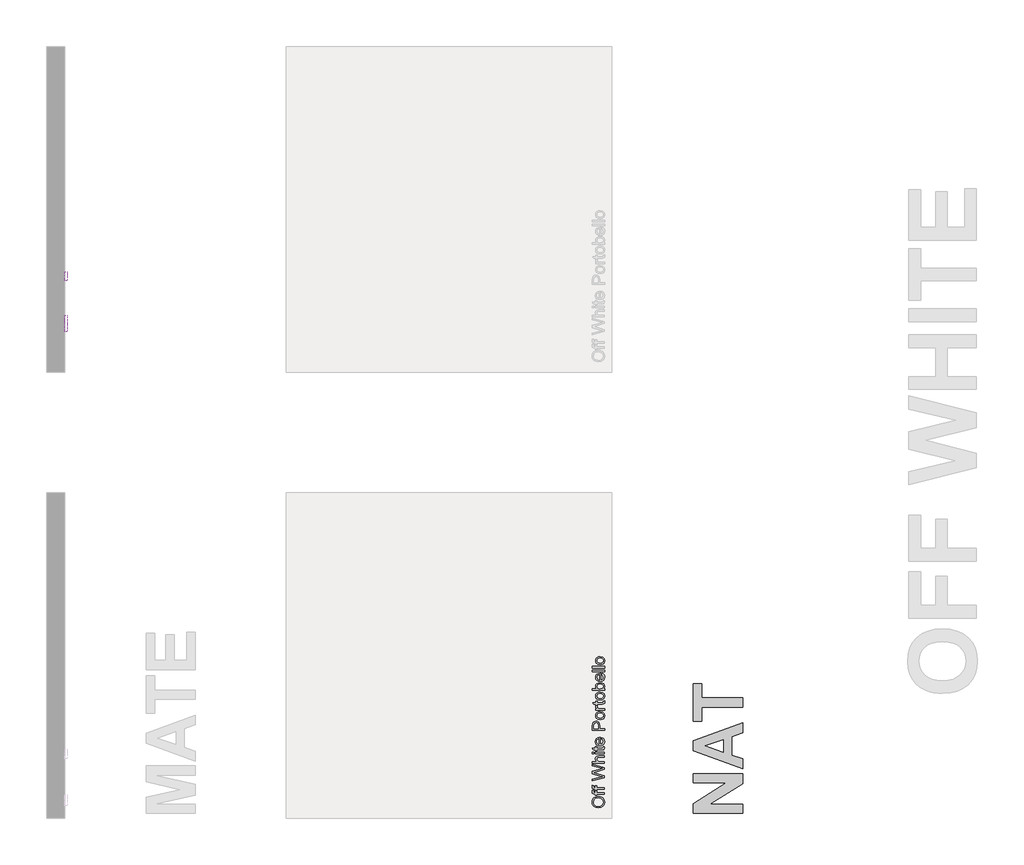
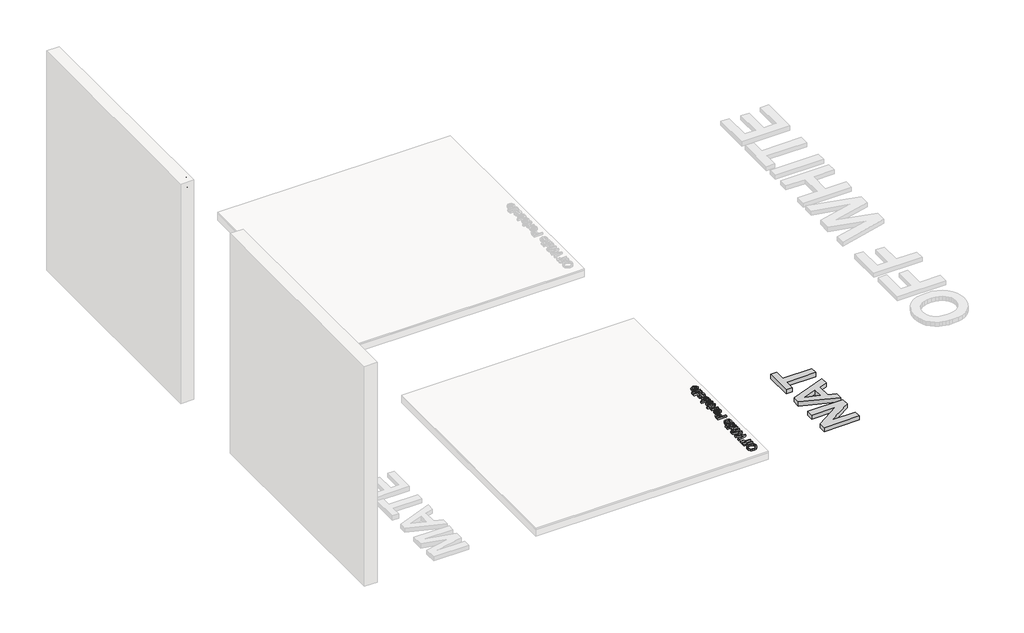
# One storey, part 2 of 8: 5 proxies.
"""IFC4 building model written with IfcOpenShell, lengths in millimetres."""

from ifc_helpers import new_model, si_unit, frame, origin, origin_with_axes, place, context, project, spatial, polyline, outline, extrude, element, save

model = new_model("IFC4")

# Units and contexts
model_context = context("Model", 3, world=origin())
ifc_project = project(units=[si_unit("LENGTHUNIT", "METRE", prefix="MILLI")], contexts=[model_context])

# Site, building, storey
site = spatial("IfcSite", under=ifc_project)
building = spatial("IfcBuilding", under=site)
storey = spatial("IfcBuildingStorey", under=building, Name="PORTOBELLO - SHOWROOM", Elevation=0.0)

# Proxies
placement = place(None, origin())
element("IfcBuildingElementProxy", 1, Name="10mm Arial", ObjectType="10mm Arial", at=placement, inside=storey, context=model_context, shape_type="SweptSolid", body=[
    extrude(outline(polyline([(-3382.1699292, -9041.2383616), (-3404.3838704, -9037.8906354), (-3421.1899462, -9027.8474569), (-3431.7665535, -9012.5129091), (-3435.2920893, -8993.2910749), (-3433.6366203, -8980.1147681), (-3428.6702134, -8968.2996247), (-3420.7423564, -8958.4894381), (-3410.2025372, -8951.328002), (-3397.5596593, -8946.9502062), (-3383.3226261, -8945.490941), (-3368.8955206, -8947.0268483), (-3356.074833, -8951.6345703), (-3345.5166198, -8959.0596552), (-3337.876937, -8969.0476514), (-3333.2416239, -8980.7616272), (-3331.6965195, -8993.3646513), (-3333.4041051, -9006.7432932), (-3338.5268618, -9018.6258816), (-3346.6018716, -9028.4115427), (-3357.1662163, -9035.4994024), (-3382.1699292, -9041.2383616)]), holes=[polyline([(-3382.0473019, -9028.6813228), (-3366.3326093, -9026.1705282), (-3354.3580504, -9018.6381443), (-3346.7796813, -9007.3165759), (-3344.2535582, -8993.4382277), (-3346.8042067, -8979.3575443), (-3354.4561522, -8968.0175818), (-3366.7985932, -8960.5403802), (-3383.420728, -8958.0479797), (-3404.1447471, -8962.3154109), (-3417.8667455, -8974.7866105), (-3422.7350505, -8993.2174985), (-3420.3898028, -9006.7248991), (-3413.3540597, -9018.2089487), (-3400.8368748, -9026.0632293), (-3382.0473019, -9028.6813228)])]), frame((0.0, 0.0, 17.0), z_axis=(0.0, 0.0, 1.0), x_axis=(1.0, 0.0, 0.0)), (0.0, 0.0, 1.0), 20.0),
    extrude(outline(polyline([(-3333.2661493, -8885.8450068), (-3394.4817133, -8885.8450068), (-3394.4817133, -8896.8324157), (-3407.0387521, -8896.8324157), (-3407.0387521, -8885.8450068), (-3414.4699684, -8885.8450068), (-3424.9423425, -8884.5206316), (-3432.4226098, -8878.0949594), (-3435.2920893, -8865.4398188), (-3433.9186632, -8853.986426), (-3422.1464394, -8855.825836), (-3422.7350505, -8863.0608486), (-3420.6503859, -8870.9703115), (-3412.8758131, -8873.287968), (-3407.0387521, -8873.287968), (-3407.0387521, -8859.1612994), (-3394.4817133, -8859.1612994), (-3394.4817133, -8873.287968), (-3333.2661493, -8873.287968), (-3333.2661493, -8885.8450068)])), frame((0.0, 0.0, 17.0), z_axis=(0.0, 0.0, 1.0), x_axis=(1.0, 0.0, 0.0)), (0.0, 0.0, 1.0), 20.0),
    extrude(outline(polyline([(-3333.2661493, -8926.6553828), (-3394.4817133, -8926.6553828), (-3394.4817133, -8937.6427917), (-3407.0387521, -8937.6427917), (-3407.0387521, -8926.6553828), (-3414.4699684, -8926.6553828), (-3424.9423425, -8925.3310076), (-3432.4226098, -8918.9053354), (-3435.2920893, -8906.2501948), (-3433.9186632, -8894.796802), (-3422.1464394, -8896.636212), (-3422.7350505, -8903.8712246), (-3420.6503859, -8911.7806875), (-3412.8758131, -8914.098344), (-3407.0387521, -8914.098344), (-3407.0387521, -8899.9716754), (-3394.4817133, -8899.9716754), (-3394.4817133, -8914.098344), (-3333.2661493, -8914.098344), (-3333.2661493, -8926.6553828)])), frame((0.0, 0.0, 17.0), z_axis=(0.0, 0.0, 1.0), x_axis=(1.0, 0.0, 0.0)), (0.0, 0.0, 1.0), 20.0),
    extrude(outline(polyline([(-3333.2661493, -8789.3863477), (-3433.7224595, -8816.7812936), (-3433.7224595, -8803.8318474), (-3367.6999041, -8787.9393452), (-3347.3192415, -8783.0342519), (-3365.3454593, -8777.7858021), (-3433.7224595, -8757.8711234), (-3433.7224595, -8739.2072435), (-3384.156492, -8724.7372184), (-3347.3192415, -8713.9705387), (-3367.1112929, -8709.2125982), (-3433.7224595, -8693.1729432), (-3433.7224595, -8680.223497), (-3333.2661493, -8707.6429683), (-3333.2661493, -8721.0583984), (-3410.766623, -8745.1424064), (-3421.5823536, -8748.5023953), (-3408.559331, -8752.2793171), (-3333.2661493, -8774.2296095), (-3333.2661493, -8789.3863477)])), frame((0.0, 0.0, 17.0), z_axis=(0.0, 0.0, 1.0), x_axis=(1.0, 0.0, 0.0)), (0.0, 0.0, 1.0), 20.0),
    extrude(outline(polyline([(-3333.2661493, -8669.236088), (-3433.7224595, -8669.236088), (-3433.7224595, -8656.6790493), (-3396.7871072, -8656.6790493), (-3405.6530632, -8646.8872568), (-3408.6083819, -8634.8268588), (-3405.3832831, -8620.7247156), (-3396.4682761, -8612.1653279), (-3379.9626372, -8609.5901539), (-3333.2661493, -8609.5901539), (-3333.2661493, -8622.1471927), (-3378.6627875, -8622.1471927), (-3391.9065393, -8626.1448437), (-3396.0513432, -8637.4756091), (-3393.25544, -8647.7640423), (-3385.6770709, -8654.6311728), (-3372.4578445, -8656.6790493), (-3333.2661493, -8656.6790493), (-3333.2661493, -8669.236088)])), frame((0.0, 0.0, 17.0), z_axis=(0.0, 0.0, 1.0), x_axis=(1.0, 0.0, 0.0)), (0.0, 0.0, 1.0), 20.0),
    extrude(outline(polyline([(-3421.1654207, -8592.3242256), (-3433.7224595, -8592.3242256), (-3433.7224595, -8579.7671868), (-3421.1654207, -8579.7671868), (-3421.1654207, -8592.3242256)])), frame((0.0, 0.0, 17.0), z_axis=(0.0, 0.0, 1.0), x_axis=(1.0, 0.0, 0.0)), (0.0, 0.0, 1.0), 20.0),
    extrude(outline(polyline([(-3333.2661493, -8592.3242256), (-3407.0387521, -8592.3242256), (-3407.0387521, -8579.7671868), (-3333.2661493, -8579.7671868), (-3333.2661493, -8592.3242256)])), frame((0.0, 0.0, 17.0), z_axis=(0.0, 0.0, 1.0), x_axis=(1.0, 0.0, 0.0)), (0.0, 0.0, 1.0), 20.0),
    extrude(outline(polyline([(-3343.7385234, -8534.2479213), (-3332.8982673, -8532.6782914), (-3331.6965195, -8542.071545), (-3333.7811841, -8552.5929701), (-3339.2503631, -8557.8414199), (-3353.4996591, -8559.3619988), (-3394.4817133, -8559.3619988), (-3394.4817133, -8568.7797779), (-3407.0387521, -8568.7797779), (-3407.0387521, -8559.3619988), (-3424.966868, -8559.3619988), (-3432.3490334, -8546.8049601), (-3407.0387521, -8546.8049601), (-3407.0387521, -8534.2479213), (-3394.4817133, -8534.2479213), (-3394.4817133, -8546.8049601), (-3353.867541, -8546.8049601), (-3347.3928179, -8546.1427725), (-3345.0996868, -8543.9967942), (-3344.2535582, -8539.7171003), (-3343.7385234, -8534.2479213)])), frame((0.0, 0.0, 17.0), z_axis=(0.0, 0.0, 1.0), x_axis=(1.0, 0.0, 0.0)), (0.0, 0.0, 1.0), 20.0),
    extrude(outline(polyline([(-3355.2409672, -8470.0402504), (-3353.6713373, -8457.7284663), (-3344.3945797, -8462.16451), (-3337.4600041, -8469.2431727), (-3333.1373906, -8478.8050389), (-3331.6965195, -8490.6906931), (-3334.1827886, -8505.424367), (-3341.6415961, -8516.7612638), (-3353.5885639, -8523.990145), (-3369.539314, -8526.3997721), (-3386.0265588, -8523.9656195), (-3398.356737, -8516.6631619), (-3406.0454707, -8505.4795493), (-3408.6083819, -8491.4019316), (-3406.0516021, -8477.7627066), (-3398.3812625, -8466.8642025), (-3386.0756097, -8459.7180947), (-3369.6128904, -8457.3360588), (-3366.2283761, -8457.4096352), (-3366.2283761, -8513.8427333), (-3356.8289911, -8511.6691638), (-3349.918941, -8506.6199834), (-3345.6699039, -8499.3328543), (-3344.2535582, -8490.4454384), (-3346.8777831, -8478.1336543), (-3355.2409672, -8470.0402504)]), holes=[polyline([(-3378.7854149, -8513.8427333), (-3378.7854149, -8469.8930976), (-3390.1652312, -8474.9208182), (-3394.5798152, -8482.2416699), (-3396.0513432, -8491.4509825), (-3391.3547164, -8506.914289), (-3385.8640776, -8511.7795284), (-3378.7854149, -8513.8427333)])]), frame((0.0, 0.0, 17.0), z_axis=(0.0, 0.0, 1.0), x_axis=(1.0, 0.0, 0.0)), (0.0, 0.0, 1.0), 20.0),
])
element("IfcBuildingElementProxy", 2, Name="10mm Arial", ObjectType="10mm Arial", at=placement, inside=storey, context=model_context, shape_type="SweptSolid", body=[
    extrude(outline(polyline([(-3331.3073778, -8397.4320978), (-3431.7636879, -8397.4320978), (-3431.7636879, -8360.2024399), (-3430.8071948, -8345.1928545), (-3426.110568, -8332.991435), (-3416.3984833, -8325.0819721), (-3402.7010103, -8322.0898652), (-3390.8613414, -8324.1101505), (-3380.9959726, -8330.1710064), (-3374.3373085, -8341.5048375), (-3372.1177538, -8359.3440486), (-3372.1177538, -8384.875059), (-3331.3073778, -8384.875059), (-3331.3073778, -8397.4320978)]), holes=[polyline([(-3384.6747926, -8384.875059), (-3384.6747926, -8358.6082846), (-3389.2855802, -8340.116083), (-3394.834467, -8336.0141987), (-3402.2595519, -8334.646904), (-3412.6583497, -8337.8720028), (-3418.3482579, -8346.3455514), (-3419.2066492, -8358.9025902), (-3419.2066492, -8384.875059), (-3384.6747926, -8384.875059)])]), frame((0.0, 0.0, 17.0), z_axis=(0.0, 0.0, 1.0), x_axis=(1.0, 0.0, 0.0)), (0.0, 0.0, 1.0), 20.0),
    extrude(outline(polyline([(-3368.1936792, -8309.5328264), (-3385.9807736, -8306.816631), (-3398.4826301, -8298.6680448), (-3404.6078653, -8288.6003409), (-3406.6496104, -8276.5460742), (-3404.1633413, -8263.354439), (-3396.7045338, -8252.8176855), (-3384.8617992, -8245.9107011), (-3369.2237488, -8243.6083729), (-3346.8810489, -8247.6796003), (-3334.238171, -8259.5376633), (-3329.7377479, -8276.5460742), (-3332.21482, -8289.8971249), (-3339.6460364, -8300.4216157), (-3351.7370913, -8307.2550237), (-3368.1936792, -8309.5328264)]), holes=[polyline([(-3368.2182046, -8296.9757877), (-3356.8537167, -8295.5226538), (-3348.7572471, -8291.1632521), (-3343.9104018, -8284.6026899), (-3342.2947867, -8276.5460742), (-3343.9195989, -8268.5262467), (-3348.7940353, -8261.9779472), (-3356.9978038, -8257.6185455), (-3368.6106121, -8256.1654117), (-3379.6440063, -8257.6277426), (-3387.6301113, -8262.0147354), (-3392.4769565, -8268.572232), (-3394.0925716, -8276.5460742), (-3392.4830879, -8284.6026899), (-3387.6546367, -8291.1632521), (-3379.5765612, -8295.5226538), (-3368.2182046, -8296.9757877)])]), frame((0.0, 0.0, 17.0), z_axis=(0.0, 0.0, 1.0), x_axis=(1.0, 0.0, 0.0)), (0.0, 0.0, 1.0), 20.0),
    extrude(outline(polyline([(-3331.3073778, -8229.4817043), (-3405.0799806, -8229.4817043), (-3405.0799806, -8218.4942954), (-3394.166148, -8218.4942954), (-3404.2215892, -8210.6951971), (-3406.6496104, -8202.8470478), (-3402.7745867, -8190.2409581), (-3391.5173977, -8194.4348129), (-3394.0925716, -8203.2639808), (-3391.6154995, -8210.3641033), (-3384.748369, -8214.8890518), (-3370.0821401, -8216.9246655), (-3331.3073778, -8216.9246655), (-3331.3073778, -8229.4817043)])), frame((0.0, 0.0, 17.0), z_axis=(0.0, 0.0, 1.0), x_axis=(1.0, 0.0, 0.0)), (0.0, 0.0, 1.0), 20.0),
    extrude(outline(polyline([(-3341.7797519, -8155.7091015), (-3330.9394958, -8154.1394717), (-3329.7377479, -8163.5327253), (-3331.8224126, -8174.0541503), (-3337.2915916, -8179.3026001), (-3351.5408875, -8180.8231791), (-3392.5229418, -8180.8231791), (-3392.5229418, -8190.2409581), (-3402.7745867, -8190.2409581), (-3405.0799806, -8190.2409581), (-3405.0799806, -8180.8231791), (-3423.0080965, -8180.8231791), (-3430.3902618, -8168.2661403), (-3405.0799806, -8168.2661403), (-3405.0799806, -8155.7091015), (-3392.5229418, -8155.7091015), (-3392.5229418, -8168.2661403), (-3351.9087695, -8168.2661403), (-3345.4340464, -8167.6039527), (-3343.1409153, -8165.4579744), (-3342.2947867, -8161.1782805), (-3341.7797519, -8155.7091015)])), frame((0.0, 0.0, 17.0), z_axis=(0.0, 0.0, 1.0), x_axis=(1.0, 0.0, 0.0)), (0.0, 0.0, 1.0), 20.0),
    extrude(outline(polyline([(-3368.1936792, -8146.2913224), (-3385.9807736, -8143.575127), (-3398.4826301, -8135.4265408), (-3404.6078653, -8125.3588369), (-3406.6496104, -8113.3045702), (-3404.1633413, -8100.112935), (-3396.7045338, -8089.5761815), (-3384.8617992, -8082.6691971), (-3369.2237488, -8080.3668689), (-3346.8810489, -8084.4380963), (-3334.238171, -8096.2961593), (-3329.7377479, -8113.3045702), (-3332.21482, -8126.6556209), (-3339.6460364, -8137.1801117), (-3351.7370913, -8144.0135198), (-3368.1936792, -8146.2913224)]), holes=[polyline([(-3368.2182046, -8133.7342837), (-3356.8537167, -8132.2811498), (-3348.7572471, -8127.9217481), (-3343.9104018, -8121.3611859), (-3342.2947867, -8113.3045702), (-3343.9195989, -8105.2847427), (-3348.7940353, -8098.7364432), (-3356.9978038, -8094.3770416), (-3368.6106121, -8092.9239077), (-3379.6440063, -8094.3862386), (-3387.6301113, -8098.7732314), (-3392.4769565, -8105.330728), (-3394.0925716, -8113.3045702), (-3392.4830879, -8121.3611859), (-3387.6546367, -8127.9217481), (-3379.5765612, -8132.2811498), (-3368.2182046, -8133.7342837)])]), frame((0.0, 0.0, 17.0), z_axis=(0.0, 0.0, 1.0), x_axis=(1.0, 0.0, 0.0)), (0.0, 0.0, 1.0), 20.0),
    extrude(outline(polyline([(-3331.3073778, -8053.6831615), (-3331.3073778, -8066.2402003), (-3431.7636879, -8066.2402003), (-3431.7636879, -8053.6831615), (-3394.5095046, -8053.6831615), (-3403.6145839, -8044.8907818), (-3406.6496104, -8033.9646866), (-3403.9150209, -8021.3831223), (-3396.2262872, -8011.6219867), (-3384.2701224, -8005.6255102), (-3369.2973252, -8003.4550064), (-3352.5341689, -8005.7021523), (-3340.0629693, -8012.4435899), (-3332.3190533, -8022.3365498), (-3329.7377479, -8034.038263), (-3333.06708, -8045.2034815), (-3343.0550762, -8053.6831615), (-3331.3073778, -8053.6831615)]), holes=[polyline([(-3368.708714, -8053.6831615), (-3351.1484801, -8050.2495962), (-3344.5082101, -8043.6706399), (-3342.2947867, -8035.1173835), (-3343.9257302, -8027.8701082), (-3348.8185608, -8021.6774279), (-3356.9426215, -8017.4283909), (-3368.2672556, -8016.0120452), (-3379.7574366, -8017.3701429), (-3387.7895268, -8021.444436), (-3392.5168104, -8027.4439782), (-3394.0925716, -8034.5778232), (-3392.4616281, -8041.8250985), (-3387.5687976, -8048.0177788), (-3379.5918897, -8052.2668158), (-3368.708714, -8053.6831615)])]), frame((0.0, 0.0, 17.0), z_axis=(0.0, 0.0, 1.0), x_axis=(1.0, 0.0, 0.0)), (0.0, 0.0, 1.0), 20.0),
    extrude(outline(polyline([(-3353.2821956, -7937.6777057), (-3351.7125658, -7925.3659216), (-3342.4358081, -7929.8019653), (-3335.5012325, -7936.8806281), (-3331.1786191, -7946.4424942), (-3329.7377479, -7958.3281484), (-3332.2240171, -7973.0618223), (-3339.6828246, -7984.3987191), (-3351.6297923, -7991.6276003), (-3367.5805425, -7994.0372274), (-3384.0677873, -7991.6030748), (-3396.3979655, -7984.3006172), (-3404.0866992, -7973.1170046), (-3406.6496104, -7959.0393869), (-3404.0928305, -7945.4001619), (-3396.4224909, -7934.5016578), (-3384.1168382, -7927.3555501), (-3367.6541189, -7924.9735141), (-3364.2696046, -7925.0470905), (-3364.2696046, -7981.4801886), (-3354.8702196, -7979.3066191), (-3347.9601694, -7974.2574388), (-3343.7111324, -7966.9703096), (-3342.2947867, -7958.0828937), (-3344.9190116, -7945.7711096), (-3353.2821956, -7937.6777057)]), holes=[polyline([(-3376.8266433, -7981.4801886), (-3376.8266433, -7937.5305529), (-3388.2064597, -7942.5582735), (-3392.6210437, -7949.8791252), (-3394.0925716, -7959.0884378), (-3389.3959448, -7974.5517444), (-3383.9053061, -7979.4169837), (-3376.8266433, -7981.4801886)])]), frame((0.0, 0.0, 17.0), z_axis=(0.0, 0.0, 1.0), x_axis=(1.0, 0.0, 0.0)), (0.0, 0.0, 1.0), 20.0),
    extrude(outline(polyline([(-3331.3073778, -7912.4164754), (-3431.7636879, -7912.4164754), (-3431.7636879, -7899.8594366), (-3331.3073778, -7899.8594366), (-3331.3073778, -7912.4164754)])), frame((0.0, 0.0, 17.0), z_axis=(0.0, 0.0, 1.0), x_axis=(1.0, 0.0, 0.0)), (0.0, 0.0, 1.0), 20.0),
    extrude(outline(polyline([(-3331.3073778, -7881.0238785), (-3431.7636879, -7881.0238785), (-3431.7636879, -7868.4668397), (-3331.3073778, -7868.4668397), (-3331.3073778, -7881.0238785)])), frame((0.0, 0.0, 17.0), z_axis=(0.0, 0.0, 1.0), x_axis=(1.0, 0.0, 0.0)), (0.0, 0.0, 1.0), 20.0),
    extrude(outline(polyline([(-3368.1936792, -7852.7705412), (-3385.9807736, -7850.0543458), (-3398.4826301, -7841.9057596), (-3404.6078653, -7831.8380557), (-3406.6496104, -7819.783789), (-3404.1633413, -7806.5921538), (-3396.7045338, -7796.0554003), (-3384.8617992, -7789.1484158), (-3369.2237488, -7786.8460877), (-3346.8810489, -7790.9173151), (-3334.238171, -7802.7753781), (-3329.7377479, -7819.783789), (-3332.21482, -7833.1348397), (-3339.6460364, -7843.6593305), (-3351.7370913, -7850.4927385), (-3368.1936792, -7852.7705412)]), holes=[polyline([(-3368.2182046, -7840.2135025), (-3356.8537167, -7838.7603686), (-3348.7572471, -7834.4009669), (-3343.9104018, -7827.8404047), (-3342.2947867, -7819.783789), (-3343.9195989, -7811.7639615), (-3348.7940353, -7805.215662), (-3356.9978038, -7800.8562603), (-3368.6106121, -7799.4031265), (-3379.6440063, -7800.8654574), (-3387.6301113, -7805.2524502), (-3392.4769565, -7811.8099467), (-3394.0925716, -7819.783789), (-3392.4830879, -7827.8404047), (-3387.6546367, -7834.4009669), (-3379.5765612, -7838.7603686), (-3368.2182046, -7840.2135025)])]), frame((0.0, 0.0, 17.0), z_axis=(0.0, 0.0, 1.0), x_axis=(1.0, 0.0, 0.0)), (0.0, 0.0, 1.0), 20.0),
])
element("IfcBuildingElementProxy", 3, Name="10mm Arial", ObjectType="10mm Arial", at=placement, inside=storey, context=model_context, shape_type="SweptSolid", body=[
    extrude(outline(polyline([(-5316.0118169, 2567.3783476), (-5312.6640908, 2589.5922887), (-5302.6209123, 2606.3983645), (-5287.2863645, 2616.9749719), (-5268.0645302, 2620.5005077), (-5254.8882234, 2618.8450387), (-5243.07308, 2613.8786317), (-5233.2628935, 2605.9507747), (-5226.1014573, 2595.4109556), (-5221.7236616, 2582.7680777), (-5220.2643963, 2568.5310445), (-5221.8003037, 2554.1039389), (-5226.4080257, 2541.2832514), (-5233.8331106, 2530.7250381), (-5243.8211068, 2523.0853553), (-5255.5350826, 2518.4500422), (-5268.1381066, 2516.9049378), (-5281.5167485, 2518.6125234), (-5293.399337, 2523.7352802), (-5303.184998, 2531.81029), (-5310.2728578, 2542.3746346), (-5316.0118169, 2567.3783476)]), holes=[polyline([(-5303.4547782, 2567.2557202), (-5300.9439836, 2551.5410277), (-5293.4115997, 2539.5664687), (-5282.0900313, 2531.9880996), (-5268.211683, 2529.4619766), (-5254.1309997, 2532.0126251), (-5242.7910372, 2539.6645706), (-5235.3138356, 2552.0070115), (-5232.8214351, 2568.6291463), (-5237.0888662, 2589.3531654), (-5249.5600659, 2603.0751638), (-5267.9909538, 2607.9434689), (-5281.4983544, 2605.5982212), (-5292.982404, 2598.562478), (-5300.8366846, 2586.0452931), (-5303.4547782, 2567.2557202)])]), frame((-7810.2594677, 0.0, 0.0), z_axis=(1.0, 0.0, 0.0), x_axis=(0.0, 1.0, 0.0)), (0.0, 0.0, 1.0), 20.0),
    extrude(outline(polyline([(-5160.6184622, 2518.4745677), (-5160.6184622, 2579.6901317), (-5171.6058711, 2579.6901317), (-5171.6058711, 2592.2471704), (-5160.6184622, 2592.2471704), (-5160.6184622, 2599.6783867), (-5159.294087, 2610.1507609), (-5152.8684148, 2617.6310281), (-5140.2132742, 2620.5005077), (-5128.7598814, 2619.1270815), (-5130.5992914, 2607.3548577), (-5137.8343039, 2607.9434689), (-5145.7437668, 2605.8588043), (-5148.0614234, 2598.0842314), (-5148.0614234, 2592.2471704), (-5133.9347548, 2592.2471704), (-5133.9347548, 2579.6901317), (-5148.0614234, 2579.6901317), (-5148.0614234, 2518.4745677), (-5160.6184622, 2518.4745677)])), frame((-7810.2594677, 0.0, 0.0), z_axis=(1.0, 0.0, 0.0), x_axis=(0.0, 1.0, 0.0)), (0.0, 0.0, 1.0), 20.0),
    extrude(outline(polyline([(-5201.4288382, 2518.4745677), (-5201.4288382, 2579.6901317), (-5212.4162471, 2579.6901317), (-5212.4162471, 2592.2471704), (-5201.4288382, 2592.2471704), (-5201.4288382, 2599.6783867), (-5200.104463, 2610.1507609), (-5193.6787908, 2617.6310281), (-5181.0236502, 2620.5005077), (-5169.5702574, 2619.1270815), (-5171.4096674, 2607.3548577), (-5178.6446799, 2607.9434689), (-5186.5541428, 2605.8588043), (-5188.8717994, 2598.0842314), (-5188.8717994, 2592.2471704), (-5174.7451308, 2592.2471704), (-5174.7451308, 2579.6901317), (-5188.8717994, 2579.6901317), (-5188.8717994, 2518.4745677), (-5201.4288382, 2518.4745677)])), frame((-7810.2594677, 0.0, 0.0), z_axis=(1.0, 0.0, 0.0), x_axis=(0.0, 1.0, 0.0)), (0.0, 0.0, 1.0), 20.0),
    extrude(outline(polyline([(-5064.159803, 2518.4745677), (-5091.554749, 2618.9308778), (-5078.6053027, 2618.9308778), (-5062.7128005, 2552.9083224), (-5057.8077073, 2532.5276599), (-5052.5592575, 2550.5538776), (-5032.6445788, 2618.9308778), (-5013.9806989, 2618.9308778), (-4999.5106738, 2569.3649103), (-4988.743994, 2532.5276599), (-4983.9860536, 2552.3197112), (-4967.9463986, 2618.9308778), (-4954.9969523, 2618.9308778), (-4982.4164237, 2518.4745677), (-4995.8318538, 2518.4745677), (-5019.9158618, 2595.9750413), (-5023.2758506, 2606.790772), (-5027.0527725, 2593.7677493), (-5049.0030648, 2518.4745677), (-5064.159803, 2518.4745677)])), frame((-7810.2594677, 0.0, 0.0), z_axis=(1.0, 0.0, 0.0), x_axis=(0.0, 1.0, 0.0)), (0.0, 0.0, 1.0), 20.0),
    extrude(outline(polyline([(-4944.0095434, 2518.4745677), (-4944.0095434, 2618.9308778), (-4931.4525047, 2618.9308778), (-4931.4525047, 2581.9955255), (-4921.6607122, 2590.8614816), (-4909.6003141, 2593.8168003), (-4895.498171, 2590.5917015), (-4886.9387832, 2581.6766944), (-4884.3636093, 2565.1710556), (-4884.3636093, 2518.4745677), (-4896.920648, 2518.4745677), (-4896.920648, 2563.8712059), (-4900.9182991, 2577.1149577), (-4912.2490645, 2581.2597615), (-4922.5374976, 2578.4638583), (-4929.4046282, 2570.8854892), (-4931.4525047, 2557.6662629), (-4931.4525047, 2518.4745677), (-4944.0095434, 2518.4745677)])), frame((-7810.2594677, 0.0, 0.0), z_axis=(1.0, 0.0, 0.0), x_axis=(0.0, 1.0, 0.0)), (0.0, 0.0, 1.0), 20.0),
    extrude(outline(polyline([(-7790.2594677, -4854.5406422), (-7790.2594677, -4867.097681), (-7810.2594677, -4867.097681), (-7810.2594677, -4854.5406422), (-7790.2594677, -4854.5406422)])), frame((0.0, 0.0, 2606.373839), z_axis=(0.0, 0.0, 1.0), x_axis=(1.0, 0.0, 0.0)), (0.0, 0.0, 1.0), 12.5570388),
    extrude(outline(polyline([(-7790.2594677, -4854.5406422), (-7790.2594677, -4867.097681), (-7810.2594677, -4867.097681), (-7810.2594677, -4854.5406422), (-7790.2594677, -4854.5406422)])), frame((0.0, 0.0, 2518.4745677), z_axis=(0.0, 0.0, 1.0), x_axis=(1.0, 0.0, 0.0)), (0.0, 0.0, 1.0), 73.7726028),
    extrude(outline(polyline([(-4809.0213767, 2528.9469418), (-4807.4517468, 2518.1066857), (-4816.8450004, 2516.9049378), (-4827.3664255, 2518.9896025), (-4832.6148753, 2524.4587815), (-4834.1354542, 2538.7080774), (-4834.1354542, 2579.6901317), (-4843.5532333, 2579.6901317), (-4843.5532333, 2592.2471704), (-4834.1354542, 2592.2471704), (-4834.1354542, 2610.1752863), (-4821.5784154, 2617.5574517), (-4821.5784154, 2592.2471704), (-4809.0213767, 2592.2471704), (-4809.0213767, 2579.6901317), (-4821.5784154, 2579.6901317), (-4821.5784154, 2539.0759594), (-4820.9162278, 2532.6012363), (-4818.7702495, 2530.3081052), (-4814.4905557, 2529.4619766), (-4809.0213767, 2528.9469418)])), frame((-7810.2594677, 0.0, 0.0), z_axis=(1.0, 0.0, 0.0), x_axis=(0.0, 1.0, 0.0)), (0.0, 0.0, 1.0), 20.0),
    extrude(outline(polyline([(-4744.8137058, 2540.4493855), (-4732.5019217, 2538.8797557), (-4736.9379654, 2529.602998), (-4744.0166281, 2522.6684224), (-4753.5784943, 2518.345809), (-4765.4641484, 2516.9049378), (-4780.1978223, 2519.391207), (-4791.5347192, 2526.8500144), (-4798.7636004, 2538.7969822), (-4801.1732274, 2554.7477324), (-4798.7390749, 2571.2349771), (-4791.4366173, 2583.5651553), (-4780.2530046, 2591.253889), (-4766.175387, 2593.8168003), (-4752.536162, 2591.2600204), (-4741.6376579, 2583.5896808), (-4734.4915501, 2571.2840281), (-4732.1095142, 2554.8213088), (-4732.1830906, 2551.4367944), (-4788.6161887, 2551.4367944), (-4786.4426192, 2542.0374095), (-4781.3934388, 2535.1273593), (-4774.1063096, 2530.8783223), (-4765.2188938, 2529.4619766), (-4752.9071097, 2532.0862015), (-4744.8137058, 2540.4493855)]), holes=[polyline([(-4788.6161887, 2563.9938332), (-4744.666553, 2563.9938332), (-4749.6942736, 2575.3736496), (-4757.0151253, 2579.7882335), (-4766.2244379, 2581.2597615), (-4781.6877444, 2576.5631347), (-4786.5529838, 2571.0724959), (-4788.6161887, 2563.9938332)])]), frame((-7810.2594677, 0.0, 0.0), z_axis=(1.0, 0.0, 0.0), x_axis=(0.0, 1.0, 0.0)), (0.0, 0.0, 1.0), 20.0),
])
element("IfcBuildingElementProxy", 4, Name="10mm Arial", ObjectType="10mm Arial", at=placement, inside=storey, context=model_context, shape_type="SweptSolid", body=[
    extrude(outline(polyline([(-4668.2580729, 2518.4745677), (-4668.2580729, 2618.9308778), (-4631.0284149, 2618.9308778), (-4616.0188295, 2617.9743846), (-4603.81741, 2613.2777578), (-4595.9079471, 2603.5656731), (-4592.9158402, 2589.8682002), (-4594.9361255, 2578.0285313), (-4600.9969814, 2568.1631625), (-4612.3308125, 2561.5044984), (-4630.1700236, 2559.2849437), (-4655.7010341, 2559.2849437), (-4655.7010341, 2518.4745677), (-4668.2580729, 2518.4745677)]), holes=[polyline([(-4655.7010341, 2571.8419824), (-4629.4342596, 2571.8419824), (-4610.942058, 2576.4527701), (-4606.8401738, 2582.0016569), (-4605.472879, 2589.4267418), (-4608.6979778, 2599.8255395), (-4617.1715265, 2605.5154477), (-4629.7285652, 2606.373839), (-4655.7010341, 2606.373839), (-4655.7010341, 2571.8419824)])]), frame((-7810.2594677, 0.0, 0.0), z_axis=(1.0, 0.0, 0.0), x_axis=(0.0, 1.0, 0.0)), (0.0, 0.0, 1.0), 20.0),
    extrude(outline(polyline([(-4580.3588015, 2555.360869), (-4577.6426061, 2573.1479635), (-4569.4940199, 2585.64982), (-4559.426316, 2591.7750552), (-4547.3720492, 2593.8168003), (-4534.180414, 2591.3305311), (-4523.6436606, 2583.8717237), (-4516.7366761, 2572.0289891), (-4514.4343479, 2556.3909386), (-4518.5055754, 2534.0482388), (-4530.3636383, 2521.4053609), (-4547.3720492, 2516.9049378), (-4560.7231, 2519.3820099), (-4571.2475907, 2526.8132262), (-4578.0809988, 2538.9042811), (-4580.3588015, 2555.360869)]), holes=[polyline([(-4567.8017627, 2555.3853945), (-4566.3486288, 2544.0209065), (-4561.9892272, 2535.924437), (-4555.4286649, 2531.0775917), (-4547.3720492, 2529.4619766), (-4539.3522218, 2531.0867887), (-4532.8039222, 2535.9612252), (-4528.4445206, 2544.1649937), (-4526.9913867, 2555.777802), (-4528.4537176, 2566.8111961), (-4532.8407104, 2574.7973011), (-4539.398207, 2579.6441464), (-4547.3720492, 2581.2597615), (-4555.4286649, 2579.6502778), (-4561.9892272, 2574.8218266), (-4566.3486288, 2566.7437511), (-4567.8017627, 2555.3853945)])]), frame((-7810.2594677, 0.0, 0.0), z_axis=(1.0, 0.0, 0.0), x_axis=(0.0, 1.0, 0.0)), (0.0, 0.0, 1.0), 20.0),
    extrude(outline(polyline([(-4500.3076793, 2518.4745677), (-4500.3076793, 2592.2471704), (-4489.3202704, 2592.2471704), (-4489.3202704, 2581.3333379), (-4481.5211721, 2591.3887791), (-4473.6730229, 2593.8168003), (-4461.0669332, 2589.9417766), (-4465.2607879, 2578.6845875), (-4474.0899558, 2581.2597615), (-4481.1900783, 2578.7826894), (-4485.7150269, 2571.9155588), (-4487.7506406, 2557.24933), (-4487.7506406, 2518.4745677), (-4500.3076793, 2518.4745677)])), frame((-7810.2594677, 0.0, 0.0), z_axis=(1.0, 0.0, 0.0), x_axis=(0.0, 1.0, 0.0)), (0.0, 0.0, 1.0), 20.0),
    extrude(outline(polyline([(-4426.5350766, 2528.9469418), (-4424.9654467, 2518.1066857), (-4434.3587003, 2516.9049378), (-4444.8801254, 2518.9896025), (-4450.1285752, 2524.4587815), (-4451.6491541, 2538.7080774), (-4451.6491541, 2579.6901317), (-4461.0669332, 2579.6901317), (-4461.0669332, 2589.9417766), (-4461.0669332, 2592.2471704), (-4451.6491541, 2592.2471704), (-4451.6491541, 2610.1752863), (-4439.0921153, 2617.5574517), (-4439.0921153, 2592.2471704), (-4426.5350766, 2592.2471704), (-4426.5350766, 2579.6901317), (-4439.0921153, 2579.6901317), (-4439.0921153, 2539.0759594), (-4438.4299277, 2532.6012363), (-4436.2839494, 2530.3081052), (-4432.0042556, 2529.4619766), (-4426.5350766, 2528.9469418)])), frame((-7810.2594677, 0.0, 0.0), z_axis=(1.0, 0.0, 0.0), x_axis=(0.0, 1.0, 0.0)), (0.0, 0.0, 1.0), 20.0),
    extrude(outline(polyline([(-4417.1172975, 2555.360869), (-4414.4011021, 2573.1479635), (-4406.2525159, 2585.64982), (-4396.184812, 2591.7750552), (-4384.1305453, 2593.8168003), (-4370.93891, 2591.3305311), (-4360.4021566, 2583.8717237), (-4353.4951721, 2572.0289891), (-4351.192844, 2556.3909386), (-4355.2640714, 2534.0482388), (-4367.1221343, 2521.4053609), (-4384.1305453, 2516.9049378), (-4397.481596, 2519.3820099), (-4408.0060867, 2526.8132262), (-4414.8394948, 2538.9042811), (-4417.1172975, 2555.360869)]), holes=[polyline([(-4404.5602587, 2555.3853945), (-4403.1071248, 2544.0209065), (-4398.7477232, 2535.924437), (-4392.1871609, 2531.0775917), (-4384.1305453, 2529.4619766), (-4376.1107178, 2531.0867887), (-4369.5624182, 2535.9612252), (-4365.2030166, 2544.1649937), (-4363.7498827, 2555.777802), (-4365.2122137, 2566.8111961), (-4369.5992064, 2574.7973011), (-4376.156703, 2579.6441464), (-4384.1305453, 2581.2597615), (-4392.1871609, 2579.6502778), (-4398.7477232, 2574.8218266), (-4403.1071248, 2566.7437511), (-4404.5602587, 2555.3853945)])]), frame((-7810.2594677, 0.0, 0.0), z_axis=(1.0, 0.0, 0.0), x_axis=(0.0, 1.0, 0.0)), (0.0, 0.0, 1.0), 20.0),
    extrude(outline(polyline([(-4324.5091366, 2518.4745677), (-4337.0661753, 2518.4745677), (-4337.0661753, 2618.9308778), (-4324.5091366, 2618.9308778), (-4324.5091366, 2581.6766944), (-4315.7167569, 2590.7817738), (-4304.7906616, 2593.8168003), (-4292.2090974, 2591.0822108), (-4282.4479618, 2583.3934771), (-4276.4514853, 2571.4373122), (-4274.2809815, 2556.464515), (-4276.5281273, 2539.7013588), (-4283.2695649, 2527.2301591), (-4293.1625249, 2519.4862431), (-4304.864238, 2516.9049378), (-4316.0294566, 2520.2342699), (-4324.5091366, 2530.222266), (-4324.5091366, 2518.4745677)]), holes=[polyline([(-4324.5091366, 2555.8759038), (-4321.0755713, 2538.3156699), (-4314.4966149, 2531.6753999), (-4305.9433585, 2529.4619766), (-4298.6960832, 2531.0929201), (-4292.503403, 2535.9857506), (-4288.2543659, 2544.1098114), (-4286.8380203, 2555.4344454), (-4288.196118, 2566.9246264), (-4292.2704111, 2574.9567167), (-4298.2699533, 2579.6840003), (-4305.4037983, 2581.2597615), (-4312.6510736, 2579.628818), (-4318.8437538, 2574.7359875), (-4323.0927909, 2566.7590795), (-4324.5091366, 2555.8759038)])]), frame((-7810.2594677, 0.0, 0.0), z_axis=(1.0, 0.0, 0.0), x_axis=(0.0, 1.0, 0.0)), (0.0, 0.0, 1.0), 20.0),
    extrude(outline(polyline([(-4208.5036808, 2540.4493855), (-4196.1918967, 2538.8797557), (-4200.6279404, 2529.602998), (-4207.7066031, 2522.6684224), (-4217.2684693, 2518.345809), (-4229.1541234, 2516.9049378), (-4243.8877973, 2519.391207), (-4255.2246941, 2526.8500144), (-4262.4535753, 2538.7969822), (-4264.8632024, 2554.7477324), (-4262.4290499, 2571.2349771), (-4255.1265923, 2583.5651553), (-4243.9429796, 2591.253889), (-4229.8653619, 2593.8168003), (-4216.226137, 2591.2600204), (-4205.3276329, 2583.5896808), (-4198.1815251, 2571.2840281), (-4195.7994892, 2554.8213088), (-4195.8730656, 2551.4367944), (-4252.3061636, 2551.4367944), (-4250.1325942, 2542.0374095), (-4245.0834138, 2535.1273593), (-4237.7962846, 2530.8783223), (-4228.9088688, 2529.4619766), (-4216.5970846, 2532.0862015), (-4208.5036808, 2540.4493855)]), holes=[polyline([(-4252.3061636, 2563.9938332), (-4208.356528, 2563.9938332), (-4213.3842486, 2575.3736496), (-4220.7051003, 2579.7882335), (-4229.9144129, 2581.2597615), (-4245.3777194, 2576.5631347), (-4250.2429588, 2571.0724959), (-4252.3061636, 2563.9938332)])]), frame((-7810.2594677, 0.0, 0.0), z_axis=(1.0, 0.0, 0.0), x_axis=(0.0, 1.0, 0.0)), (0.0, 0.0, 1.0), 20.0),
    extrude(outline(polyline([(-7790.2594677, -4170.6854117), (-7790.2594677, -4183.2424504), (-7810.2594677, -4183.2424504), (-7810.2594677, -4170.6854117), (-7790.2594677, -4170.6854117)])), frame((0.0, 0.0, 2518.4745677), z_axis=(0.0, 0.0, 1.0), x_axis=(1.0, 0.0, 0.0)), (0.0, 0.0, 1.0), 100.4563101),
    extrude(outline(polyline([(-7790.2594677, -4139.2928147), (-7790.2594677, -4151.8498535), (-7810.2594677, -4151.8498535), (-7810.2594677, -4139.2928147), (-7790.2594677, -4139.2928147)])), frame((0.0, 0.0, 2518.4745677), z_axis=(0.0, 0.0, 1.0), x_axis=(1.0, 0.0, 0.0)), (0.0, 0.0, 1.0), 100.4563101),
    extrude(outline(polyline([(-4123.5965163, 2555.360869), (-4120.8803209, 2573.1479635), (-4112.7317347, 2585.64982), (-4102.6640307, 2591.7750552), (-4090.609764, 2593.8168003), (-4077.4181288, 2591.3305311), (-4066.8813753, 2583.8717237), (-4059.9743909, 2572.0289891), (-4057.6720627, 2556.3909386), (-4061.7432901, 2534.0482388), (-4073.6013531, 2521.4053609), (-4090.609764, 2516.9049378), (-4103.9608148, 2519.3820099), (-4114.4853055, 2526.8132262), (-4121.3187136, 2538.9042811), (-4123.5965163, 2555.360869)]), holes=[polyline([(-4111.0394775, 2555.3853945), (-4109.5863436, 2544.0209065), (-4105.226942, 2535.924437), (-4098.6663797, 2531.0775917), (-4090.609764, 2529.4619766), (-4082.5899365, 2531.0867887), (-4076.041637, 2535.9612252), (-4071.6822354, 2544.1649937), (-4070.2291015, 2555.777802), (-4071.6914324, 2566.8111961), (-4076.0784252, 2574.7973011), (-4082.6359218, 2579.6441464), (-4090.609764, 2581.2597615), (-4098.6663797, 2579.6502778), (-4105.226942, 2574.8218266), (-4109.5863436, 2566.7437511), (-4111.0394775, 2555.3853945)])]), frame((-7810.2594677, 0.0, 0.0), z_axis=(1.0, 0.0, 0.0), x_axis=(0.0, 1.0, 0.0)), (0.0, 0.0, 1.0), 20.0),
])
element("IfcBuildingElementProxy", 5, Name="400mm Arial", ObjectType="400mm Arial", at=placement, inside=storey, context=model_context, shape_type="SweptSolid", body=[
    extrude(outline(polyline([(-2186.6051838, -9087.2928878), (-2594.7089437, -9087.2928878), (-2594.7089437, -9005.8138385), (-2320.0081489, -8834.6572269), (-2594.7089437, -8834.6572269), (-2594.7089437, -8756.9231774), (-2186.6051838, -8756.9231774), (-2186.6051838, -8840.9326319), (-2457.2573301, -9009.5588383), (-2186.6051838, -9009.5588383), (-2186.6051838, -9087.2928878)])), origin_with_axes(), (0.0, 0.0, 1.0), 50.0),
    extrude(outline(polyline([(-2186.6051838, -8335.8637424), (-2186.6051838, -8417.5452242), (-2277.2949082, -8449.5295466), (-2277.2949082, -8603.6818349), (-2186.6051838, -8635.2612926), (-2186.6051838, -8718.0561526), (-2594.7089437, -8569.065891), (-2594.7089437, -8486.271031), (-2186.6051838, -8335.8637424)]), holes=[polyline([(-2348.5511203, -8474.4287344), (-2497.5413818, -8526.9599475), (-2348.5511203, -8578.7826472), (-2348.5511203, -8474.4287344)])]), origin_with_axes(), (0.0, 0.0, 1.0), 50.0),
    extrude(outline(polyline([(-2186.6051838, -8206.3069932), (-2523.4527317, -8206.3069932), (-2523.4527317, -8322.9080675), (-2594.7089437, -8322.9080675), (-2594.7089437, -8011.9718694), (-2523.4527317, -8011.9718694), (-2523.4527317, -8128.5729437), (-2186.6051838, -8128.5729437), (-2186.6051838, -8206.3069932)])), origin_with_axes(), (0.0, 0.0, 1.0), 50.0),
])

save(model, "model.ifc")
